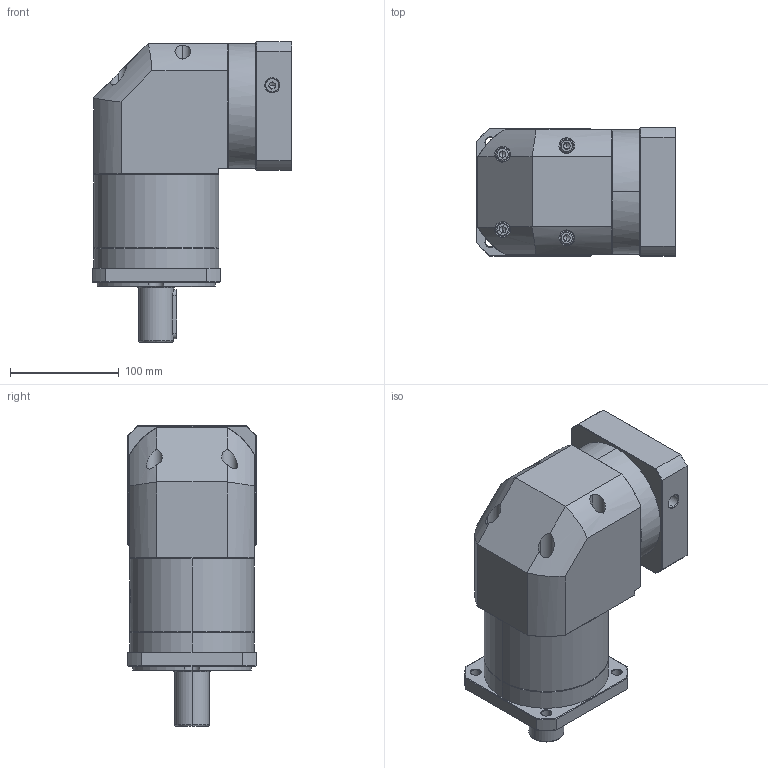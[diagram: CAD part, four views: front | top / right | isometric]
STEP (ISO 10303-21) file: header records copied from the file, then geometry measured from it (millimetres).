
FILE_DESCRIPTION (( 'STEP AP214' ), '1' );
FILE_NAME ('ZFR120A-D32-L2-P2-19-95-115-M6.step', '2023-08-27T08:08:37', ( '' ), ( '' ), 'SwSTEP 2.0', 'SolidWorks 2016', '' );
FILE_SCHEMA (( 'AUTOMOTIVE_DESIGN' ));
Length unit declared in the file: millimetre
Products named in the file (1): ZFR120A-D32-L2-P2-19-95-115-M6
Bounding box: 183.9 x 118 x 276.5 mm (x, y, z)
Volume: 3111455.9 mm3; surface area: 246859.6 mm2
Topology: 6 solids, 6 shells, 2253 faces, 5944 edges, 3795 vertices
Faces by surface type: plane 1060, bspline 428, cylinder 419, cone 338, torus 8
Entity records: 124790 total; most frequent: CARTESIAN_POINT 49778, ORIENTED_EDGE 11828, DIRECTION 8584, EDGE_CURVE 5914, VERTEX_POINT 3795, LINE 3140, VECTOR 3140, AXIS2_PLACEMENT_3D 2722
